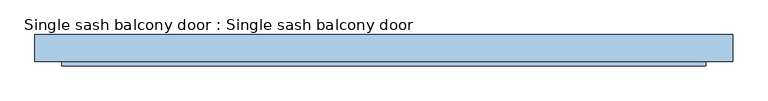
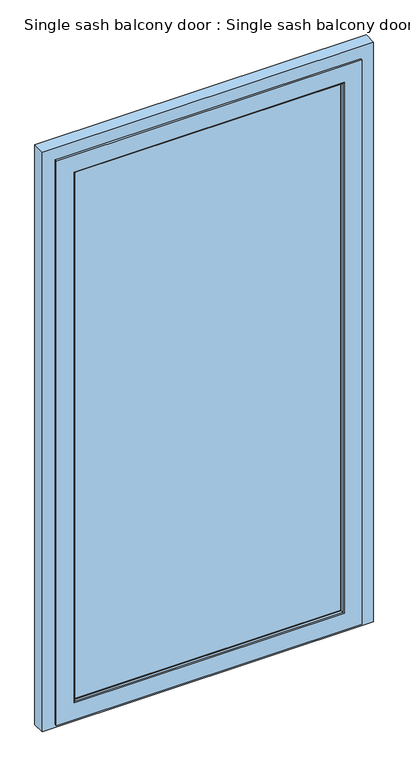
"""IFC4 building model written with IfcOpenShell, lengths in millimetres: window geometry, Single sash balcony door : Single sash balcony door."""

import ifcopenshell
import ifcopenshell.guid

model = None  # the IFC model being written
_history = None  # IfcOwnerHistory: only IFC2X3 demands one
_inside = {}  # id of a spatial element -> (the spatial element, [elements in it])
_under = {}  # id of a project, library or spatial element -> (it, [spatial elements below it])
_declared = {}  # id of a project -> (the project, [libraries it declares])
_typed = {}  # id of a type object -> (the type object, [elements of that type])
_made_of = {}  # id of a material, layer set ... -> (it, [elements and type objects made of it])


def new_model(schema):
    """Start an empty IFC model of exactly this schema.

    Asked for "IFC4X3", IfcOpenShell would pick the latest addendum, in which some entities
    have other attributes; the version numbers below select the first issue.
    IFC2X3 requires an IfcOwnerHistory on every rooted entity: one is made here for all.
    """
    global model, _history
    if schema == "IFC4X3":
        model = ifcopenshell.file(schema_version=(4, 3, 0, 0))
    else:
        model = ifcopenshell.file(schema=schema)
    _inside.clear()
    _under.clear()
    _declared.clear()
    _typed.clear()
    _made_of.clear()
    _history = None
    if model.schema == "IFC2X3":
        org = make("IfcOrganization", Name="unknown")
        user = make(
            "IfcPersonAndOrganization",
            ThePerson=make("IfcPerson", FamilyName="unknown"),
            TheOrganization=org,
        )
        app = make(
            "IfcApplication",
            ApplicationDeveloper=org,
            Version="unknown",
            ApplicationFullName="unknown",
            ApplicationIdentifier="unknown",
        )
        _history = make(
            "IfcOwnerHistory",
            OwningUser=user,
            OwningApplication=app,
            ChangeAction="ADDED",
            CreationDate=0,
        )
    return model


def make(cls, **values):
    """One entity of the class cls with the attributes given. An attribute that is None is left unset."""
    return model.create_entity(
        cls, **{name: value for name, value in values.items() if value is not None}
    )


def rooted(cls, **values):
    """An entity with a GlobalId (a new one), such as an element, a storey or a relation."""
    return make(cls, GlobalId=ifcopenshell.guid.new(), OwnerHistory=_history, **values)


def si_unit(unit_type, name, prefix=None):
    """IfcSIUnit, for example si_unit("LENGTHUNIT", "METRE", prefix="MILLI")."""
    return make("IfcSIUnit", UnitType=unit_type, Prefix=prefix, Name=name)


def assignment(units):
    """IfcUnitAssignment: the units of a project."""
    return None if units is None else make("IfcUnitAssignment", Units=units)


def point(xyz):
    """IfcCartesianPoint."""
    return None if xyz is None else make("IfcCartesianPoint", Coordinates=xyz)


def direction(xyz):
    """IfcDirection."""
    return None if xyz is None else make("IfcDirection", DirectionRatios=xyz)


def frame(location, z_axis=None, x_axis=None):
    """IfcAxis2Placement3D, a coordinate frame: its origin and axes. An axis left out is left unset."""
    return make(
        "IfcAxis2Placement3D",
        Location=point(location),
        Axis=direction(z_axis),
        RefDirection=direction(x_axis),
    )


def origin():
    """The frame at (0, 0, 0) with its axes left unset."""
    return frame((0.0, 0.0, 0.0))


def place(relative_to, where):
    """IfcLocalPlacement: puts the frame where relative to a parent placement (None: the world)."""
    return make(
        "IfcLocalPlacement", PlacementRelTo=relative_to, RelativePlacement=where
    )


def context(
    kind, dimensions, precision=None, world=None, true_north=None, identifier=None
):
    """IfcGeometricRepresentationContext, for example the 3D "Model" context."""
    return make(
        "IfcGeometricRepresentationContext",
        ContextIdentifier=identifier,
        ContextType=kind,
        CoordinateSpaceDimension=dimensions,
        Precision=precision,
        WorldCoordinateSystem=world,
        TrueNorth=true_north,
    )


def project(units=None, contexts=None):
    """IfcProject with its units and contexts."""
    return rooted(
        "IfcProject",
        Name="project",
        RepresentationContexts=contexts,
        UnitsInContext=assignment(units),
    )


def spatial(cls, under=None, at=None, **own):
    """A site, building, storey or space (cls), placed at a placement, below another one or the project."""
    s = rooted(cls, ObjectPlacement=at, **own)
    if under is not None:
        _under.setdefault(under.id(), (under, []))[1].append(s)
    return s


def polyline(points):
    """IfcPolyline through the points."""
    return make("IfcPolyline", Points=[point(p) for p in points])


def circle_curve(where, radius):
    """IfcCircle in the frame where."""
    return make("IfcCircle", Position=where, Radius=radius)


def ellipse_curve(where, semi_axis1, semi_axis2):
    """IfcEllipse in the frame where."""
    return make(
        "IfcEllipse", Position=where, SemiAxis1=semi_axis1, SemiAxis2=semi_axis2
    )


def outline(outer, holes=None, kind="AREA"):
    """IfcArbitraryClosedProfileDef: a profile drawn as a closed curve; with holes, ...WithVoids."""
    if holes is None:
        return make("IfcArbitraryClosedProfileDef", ProfileType=kind, OuterCurve=outer)
    return make(
        "IfcArbitraryProfileDefWithVoids",
        ProfileType=kind,
        OuterCurve=outer,
        InnerCurves=holes,
    )


def extrude(swept, where, along, depth):
    """IfcExtrudedAreaSolid: the profile swept, set in the frame where, extruded along a direction by depth."""
    return make(
        "IfcExtrudedAreaSolid",
        SweptArea=swept,
        Position=where,
        ExtrudedDirection=direction(along),
        Depth=depth,
    )


def shape(context_of_items, identifier, shape_type, items):
    """IfcShapeRepresentation: the items that make up one representation, for example the "Body"."""
    return make(
        "IfcShapeRepresentation",
        ContextOfItems=context_of_items,
        RepresentationIdentifier=identifier,
        RepresentationType=shape_type,
        Items=items,
    )


def source(mapping_origin, context_of_items, identifier, shape_type, items):
    """IfcRepresentationMap: a shape defined once, which mapped items show again and again."""
    return make(
        "IfcRepresentationMap",
        MappingOrigin=mapping_origin,
        MappedRepresentation=shape(context_of_items, identifier, shape_type, items),
    )


def transform(
    local_origin,
    x_axis=None,
    y_axis=None,
    z_axis=None,
    scale=None,
    scale2=None,
    scale3=None,
    uniform=True,
):
    """IfcCartesianTransformationOperator3D, or its non-uniform kind. x_axis, y_axis, z_axis: its Axis1, 2, 3."""
    if uniform:
        return make(
            "IfcCartesianTransformationOperator3D",
            Axis1=direction(x_axis),
            Axis2=direction(y_axis),
            LocalOrigin=point(local_origin),
            Scale=scale,
            Axis3=direction(z_axis),
        )
    return make(
        "IfcCartesianTransformationOperator3DnonUniform",
        Axis1=direction(x_axis),
        Axis2=direction(y_axis),
        LocalOrigin=point(local_origin),
        Scale=scale,
        Axis3=direction(z_axis),
        Scale2=scale2,
        Scale3=scale3,
    )


def mapped(mapping_source, mapping_target):
    """IfcMappedItem: shows the shape of a source again, moved by a transform."""
    return make(
        "IfcMappedItem", MappingSource=mapping_source, MappingTarget=mapping_target
    )


def made_of(thing, what):
    """Note that an element or type object is made of a material, layer set ...; save() writes the relation."""
    if what is not None:
        _made_of.setdefault(what.id(), (what, []))[1].append(thing)
    return thing


def element(
    cls,
    number,
    at=None,
    inside=None,
    cuts=None,
    type_object=None,
    material=None,
    context=None,
    identifier="Body",
    shape_type=None,
    held_by="IfcProductDefinitionShape",
    body=None,
    shapes=None,
    **own,
):
    """One element of the class cls, such as IfcWall. Its Tag is "e" and its number.

    at: its placement. inside: the storey or other place that contains it. cuts: it is an
    opening in that element (IfcRelVoidsElement). A single representation is given by context,
    identifier, shape_type and body (its items); several are given by shapes. held_by: the class
    of the entity that holds the representations. save() writes the other relations.
    """
    e = rooted(cls, Tag="e%d" % number, ObjectPlacement=at, **own)
    if body is not None:
        shapes = [shape(context, identifier, shape_type, body)]
    if shapes is not None:
        e.Representation = make(held_by, Representations=shapes)
    if inside is not None:
        _inside.setdefault(inside.id(), (inside, []))[1].append(e)
    if cuts is not None:
        rooted(
            "IfcRelVoidsElement", RelatingBuildingElement=cuts, RelatedOpeningElement=e
        )
    if type_object is not None:
        _typed.setdefault(type_object.id(), (type_object, []))[1].append(e)
    return made_of(e, material)


def aggregate(whole, parts):
    """IfcRelAggregates: a whole, such as a stair, and the parts it consists of."""
    return rooted("IfcRelAggregates", RelatingObject=whole, RelatedObjects=parts)


def save(model, path):
    """Write the relations noted so far, then the file.

    IfcRelAggregates (storeys below a building ...), IfcRelContainedInSpatialStructure (elements
    in a storey), IfcRelDefinesByType, IfcRelAssociatesMaterial and IfcRelDeclares: one each for
    every whole, place, type object, material and project.
    """
    for whole, parts in _under.values():
        aggregate(whole, parts)
    for where, things in _inside.values():
        rooted(
            "IfcRelContainedInSpatialStructure",
            RelatedElements=things,
            RelatingStructure=where,
        )
    for kind, things in _typed.values():
        rooted("IfcRelDefinesByType", RelatedObjects=things, RelatingType=kind)
    for what, things in _made_of.values():
        rooted("IfcRelAssociatesMaterial", RelatedObjects=things, RelatingMaterial=what)
    for by, libraries in _declared.values():
        rooted("IfcRelDeclares", RelatingContext=by, RelatedDefinitions=libraries)
    model.write(path)


def plane_surface(at):
    """IfcPlane: the flat surface through the origin of the frame at, square to its z axis."""
    return make("IfcPlane", Position=at)


def cylinder_surface(at, radius):
    """IfcCylindricalSurface: all points at the distance radius from the z axis of the frame at."""
    return make("IfcCylindricalSurface", Position=at, Radius=radius)


def advanced_brep(points, edges, surfaces, faces):
    """IfcAdvancedBrep: a solid bounded by faces that lie on surfaces and meet in shared edges.

    An edge is (start, end): straight between two places in points (the first is 0);
    or (start, end, curve); or (start, end, curve, False) where it runs against its curve.
    A face is (place in surfaces, loops), or (place, loops, False) where it looks against
    its surface's normal. A loop lists edges by number (the first is 1), with a minus sign
    where the edge is run from its end to its start. The first loop is the outer one.
    """
    corners = [point(p) for p in points]
    vertices = [make("IfcVertexPoint", VertexGeometry=c) for c in corners]
    made = []
    for start, end, *more in edges:
        made.append(
            make(
                "IfcEdgeCurve",
                EdgeStart=vertices[start],
                EdgeEnd=vertices[end],
                EdgeGeometry=more[0] if more else make("IfcPolyline", Points=[corners[start], corners[end]]),
                SameSense=more[1] if len(more) > 1 else True,
            )
        )
    hull = []
    for where, loops, *sense in faces:
        bounds = []
        for j, loop in enumerate(loops):
            ring = [make("IfcOrientedEdge", EdgeElement=made[abs(k) - 1], Orientation=k > 0) for k in loop]
            bounds.append(
                make(
                    "IfcFaceOuterBound" if j == 0 else "IfcFaceBound",
                    Bound=make("IfcEdgeLoop", EdgeList=ring),
                    Orientation=True,
                )
            )
        hull.append(make("IfcAdvancedFace", Bounds=bounds, FaceSurface=surfaces[where], SameSense=sense[0] if sense else True))
    return make("IfcAdvancedBrep", Outer=make("IfcClosedShell", CfsFaces=hull))


def single_sash_balcony_door_single_sash_balcony_door_8578c67e(model_context):
    return source(origin(), model_context, "Body", "SolidModel", [
        extrude(outline(polyline([(-491.0033737, 4.9434496), (491.0033737, 4.9434496), (491.0033737, -19.0565504), (-491.0033737, -19.0565504), (-491.0033737, 4.9434496)])), frame((0.0, 0.0, 125.4966263), z_axis=(0.0, 0.0, 1.0), x_axis=(1.0, 0.0, 0.0)), (0.0, 0.0, 1.0), 2015.5067474),
        advanced_brep(
        [(-475.9999852, -23.4916685, 140.5000148), (-477.7795065, -30.8250073, 138.7204935), (477.7795065, -30.8250073, 138.7204935), (475.9999852, -23.4916685, 140.5000148), (477.7795065, -30.8250073, 2127.7795065), (475.9999852, -23.4916685, 2125.9999852), (481.3346252, -32.9916685, 135.1653748), (481.3346252, -32.9916685, 2131.3346252), (475.9999852, -19.0565504, 140.5000148), (475.9999852, -19.0565504, 2125.9999852), (-475.9999852, -19.0565504, 140.5000148), (491.0033737, -19.0565504, 125.4966263), (-491.0033737, -19.0565504, 125.4966263), (-491.0033737, -19.0565504, 2141.0033737), (491.0033737, -19.0565504, 2141.0033737), (-475.9999852, -19.0565504, 2125.9999852), (-491.0033737, 4.9434496, 125.4966263), (491.0033737, 4.9434496, 125.4966263), (491.0033737, 4.9434496, 2141.0033737), (-491.0033737, 4.9434496, 2141.0033737), (475.9999772, 4.9434496, 140.5000228), (-475.9999772, 4.9434496, 140.5000228), (-475.9999772, 4.9434496, 2125.9999772), (475.9999772, 4.9434496, 2125.9999772), (-475.9999772, 14.5083925, 140.5000228), (475.9999772, 14.5083925, 140.5000228), (475.9999772, 14.5083925, 2125.9999772), (481.4999772, 20.0083925, 135.0000228), (481.4999772, 20.0083925, 2131.4999772), (-481.4999772, 20.0083925, 135.0000228), (511.5, 20.0083924, 105.0), (-511.5, 20.0083924, 105.0), (-511.5, 20.0083924, 2161.5), (511.5, 20.0083924, 2161.5), (-481.4999772, 20.0083924, 2131.4999772), (-511.5, 12.0083925, 105.0), (511.5, 12.0083925, 105.0), (511.5, 12.0083925, 2161.5), (526.9999558, 12.0083925, 89.5000442), (-526.9999558, 12.0083925, 89.5000442), (-526.9999558, 12.0083925, 2176.9999558), (526.9999558, 12.0083925, 2176.9999558), (-511.5, 12.0083925, 2161.5), (-526.9999558, -25.0, 89.5000442), (526.9999558, -25.0, 89.5000442), (526.9999558, -25.0, 2176.9999558), (544.5000082, -25.0, 71.9999918), (-544.5000082, -25.0, 71.9999918), (-544.5000082, -25.0, 2194.5000082), (544.5000082, -25.0, 2194.5000082), (-526.9999558, -25.0, 2176.9999558), (-544.5000082, -32.9916685, 71.9999918), (544.5000082, -32.9916685, 71.9999918), (544.5000082, -32.9916685, 2194.5000082), (-544.5000082, -32.9916685, 2194.5000082), (-481.3346252, -32.9916685, 135.1653748), (-481.3346252, -32.9916685, 2131.3346252), (-475.9999852, -23.4916685, 2125.9999852), (-477.7795065, -30.8250073, 2127.7795065), (-475.9999772, 14.5083925, 2125.9999772)],
        [
            (0, 1, ellipse_curve(frame((-491.9999492, -23.4916685, 124.5000508), z_axis=(0.7071067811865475, 0.0, -0.7071067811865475), x_axis=(-0.7071067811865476, 0.0, -0.7071067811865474)), 22.6273661, 15.999964)),
            (1, 2),
            (2, 3, ellipse_curve(frame((491.9999492, -23.4916685, 124.5000508), z_axis=(-0.7071067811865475, 0.0, -0.7071067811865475), x_axis=(-0.7071067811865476, 0.0, 0.7071067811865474)), 22.6273661, 15.999964)),
            (3, 0),
            (2, 4),
            (4, 5, ellipse_curve(frame((491.9999492, -23.4916685, 2141.9999492), z_axis=(0.7071067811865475, 0.0, -0.7071067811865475), x_axis=(-0.7071067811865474, 0.0, -0.7071067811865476)), 22.6273661, 15.999964)),
            (5, 3),
            (2, 6, ellipse_curve(frame((481.3346252, -28.9916685, 135.1653748), z_axis=(0.7071067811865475, 0.0, 0.7071067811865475), x_axis=(0.7071067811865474, 0.0, -0.7071067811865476)), 5.6568542, 4.0)),
            (6, 7),
            (7, 4, ellipse_curve(frame((481.3346252, -28.9916685, 2131.3346252), z_axis=(0.7071067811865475, 0.0, -0.7071067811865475), x_axis=(-0.7071067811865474, 0.0, -0.7071067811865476)), 5.6568542, 4.0)),
            (8, 3),
            (5, 9),
            (9, 8),
            (10, 0),
            (8, 10),
            (11, 12),
            (12, 13),
            (13, 14),
            (14, 11),
            (9, 15),
            (15, 10),
            (16, 12),
            (11, 17),
            (17, 16),
            (14, 18),
            (18, 17),
            (18, 19),
            (19, 16),
            (20, 21),
            (21, 22),
            (22, 23),
            (23, 20),
            (24, 21),
            (20, 25),
            (25, 24),
            (23, 26),
            (26, 25),
            (27, 25, ellipse_curve(frame((481.4999772, 14.5083925, 135.0000228), z_axis=(0.7071067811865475, 0.0, 0.7071067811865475), x_axis=(0.7071067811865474, 0.0, -0.7071067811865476)), 7.7781746, 5.5)),
            (26, 28, ellipse_curve(frame((481.4999772, 14.5083925, 2131.4999772), z_axis=(0.7071067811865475, 0.0, -0.7071067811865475), x_axis=(-0.7071067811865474, 0.0, -0.7071067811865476)), 7.7781746, 5.5)),
            (28, 27),
            (29, 24, ellipse_curve(frame((-481.4999772, 14.5083925, 135.0000228), z_axis=(0.7071067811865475, 0.0, -0.7071067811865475), x_axis=(-0.7071067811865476, 0.0, -0.7071067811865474)), 7.7781746, 5.5)),
            (27, 29),
            (30, 31),
            (31, 32),
            (32, 33),
            (33, 30),
            (28, 34),
            (34, 29),
            (35, 31),
            (30, 36),
            (36, 35),
            (33, 37),
            (37, 36),
            (38, 39),
            (39, 40),
            (40, 41),
            (41, 38),
            (37, 42),
            (42, 35),
            (43, 39),
            (38, 44),
            (44, 43),
            (41, 45),
            (45, 44),
            (46, 47),
            (47, 48),
            (48, 49),
            (49, 46),
            (45, 50),
            (50, 43),
            (51, 47),
            (46, 52),
            (52, 51),
            (49, 53),
            (53, 52),
            (53, 54),
            (54, 51),
            (6, 55),
            (55, 56),
            (56, 7),
            (1, 55, ellipse_curve(frame((-481.3346252, -28.9916685, 135.1653748), z_axis=(0.7071067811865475, 0.0, -0.7071067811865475), x_axis=(-0.7071067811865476, 0.0, -0.7071067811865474)), 5.6568542, 4.0)),
            (57, 58, ellipse_curve(frame((-491.9999492, -23.4916685, 2141.9999492), z_axis=(-0.7071067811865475, 0.0, -0.7071067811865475), x_axis=(-0.7071067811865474, 0.0, 0.7071067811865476)), 22.6273661, 15.999964)),
            (58, 1),
            (0, 57),
            (58, 56, ellipse_curve(frame((-481.3346252, -28.9916685, 2131.3346252), z_axis=(-0.7071067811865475, 0.0, -0.7071067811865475), x_axis=(-0.7071067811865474, 0.0, 0.7071067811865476)), 5.6568542, 4.0)),
            (15, 57),
            (19, 13),
            (59, 22),
            (24, 59),
            (34, 59, ellipse_curve(frame((-481.4999772, 14.5083925, 2131.4999772), z_axis=(-0.7071067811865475, 0.0, -0.7071067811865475), x_axis=(-0.7071067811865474, 0.0, 0.7071067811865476)), 7.7781746, 5.5)),
            (42, 32),
            (50, 40),
            (54, 48),
            (4, 58),
            (57, 5),
            (59, 26),
        ],
        [
            cylinder_surface(frame((-590.0, -23.4916685, 124.5000508), z_axis=(-1.0, 0.0, 0.0), x_axis=(0.0, 0.0, 1.0)), 15.999964),
            cylinder_surface(frame((491.9999492, -23.4916685, 26.5), z_axis=(0.0, 0.0, -1.0), x_axis=(-1.0, 0.0, 0.0)), 15.999964),
            cylinder_surface(frame((481.3346252, -28.9916685, 26.5), z_axis=(0.0, 0.0, -1.0), x_axis=(-0.888780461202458, -0.45833316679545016, 0.0)), 4.0),
            plane_surface(frame((475.9999852, -23.4916685, 140.5000148), z_axis=(-1.0, 0.0, 0.0), x_axis=(0.0, 0.0, 1.0))),
            plane_surface(frame((-475.9999852, -23.4916685, 140.5000148), z_axis=(0.0, 0.0, 1.0), x_axis=(1.0, 0.0, 0.0))),
            plane_surface(frame((-475.9999852, -19.0565504, 140.5000148), z_axis=(0.0, 1.0, 0.0), x_axis=(1.0, 0.0, 0.0))),
            plane_surface(frame((-491.0033737, -19.0565504, 125.4966263), z_axis=(0.0, 0.0, 1.0), x_axis=(1.0, 0.0, 0.0))),
            plane_surface(frame((491.0033737, -19.0565504, 125.4966263), z_axis=(-1.0, 0.0, 0.0), x_axis=(0.0, 0.0, 1.0))),
            plane_surface(frame((-491.0033737, 4.9434496, 125.4966263), z_axis=(0.0, -1.0, 0.0), x_axis=(1.0, 0.0, 0.0))),
            plane_surface(frame((-475.9999772, 4.9434496, 140.5000228), z_axis=(0.0, 0.0, 1.0), x_axis=(1.0, 0.0, 0.0))),
            plane_surface(frame((475.9999772, 4.9434496, 140.5000228), z_axis=(-1.0, 0.0, 0.0), x_axis=(0.0, 0.0, 1.0))),
            cylinder_surface(frame((481.4999772, 14.5083925, 26.5), z_axis=(0.0, 0.0, -1.0), x_axis=(0.0, 1.0, 0.0)), 5.5),
            cylinder_surface(frame((-590.0, 14.5083925, 135.0000228), z_axis=(-1.0, 0.0, 0.0), x_axis=(0.0, 1.0, 0.0)), 5.5),
            plane_surface(frame((-481.4999772, 20.0083924, 135.0000228), z_axis=(0.0, 1.0, 0.0), x_axis=(1.0, 0.0, 0.0))),
            plane_surface(frame((-511.5, 20.0083924, 105.0), z_axis=(0.0, 0.0, -1.0), x_axis=(1.0, 0.0, 0.0))),
            plane_surface(frame((511.5, 20.0083924, 105.0), z_axis=(1.0, 0.0, 0.0), x_axis=(0.0, 0.0, 1.0))),
            plane_surface(frame((-511.5, 12.0083925, 105.0), z_axis=(0.0, 1.0, 0.0), x_axis=(1.0, 0.0, 0.0))),
            plane_surface(frame((-526.9999558, 12.0083925, 89.5000442), z_axis=(0.0, 0.0, -1.0), x_axis=(1.0, 0.0, 0.0))),
            plane_surface(frame((526.9999558, 12.0083925, 89.5000442), z_axis=(1.0, 0.0, 0.0), x_axis=(0.0, 0.0, 1.0))),
            plane_surface(frame((-526.9999558, -25.0, 89.5000442), z_axis=(0.0, 1.0, 0.0), x_axis=(1.0, 0.0, 0.0))),
            plane_surface(frame((-544.5000082, -25.0, 71.9999918), z_axis=(0.0, 0.0, -1.0), x_axis=(1.0, 0.0, 0.0))),
            plane_surface(frame((544.5000082, -25.0, 71.9999918), z_axis=(1.0, 0.0, 0.0), x_axis=(0.0, 0.0, 1.0))),
            plane_surface(frame((-544.5000082, -32.9916685, 71.9999918), z_axis=(0.0, -1.0, 0.0), x_axis=(1.0, 0.0, 0.0))),
            cylinder_surface(frame((-590.0, -28.9916685, 135.1653748), z_axis=(-1.0, 0.0, 0.0), x_axis=(0.0, -0.45833316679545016, 0.888780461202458)), 4.0),
            cylinder_surface(frame((-491.9999492, -23.4916685, 2240.0), z_axis=(0.0, 0.0, 1.0), x_axis=(1.0, 0.0, 0.0)), 15.999964),
            cylinder_surface(frame((-481.3346252, -28.9916685, 2240.0), z_axis=(0.0, 0.0, 1.0), x_axis=(0.888780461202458, -0.45833316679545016, 0.0)), 4.0),
            plane_surface(frame((-475.9999852, -23.4916685, 2125.9999852), z_axis=(1.0, 0.0, 0.0), x_axis=(0.0, 0.0, -1.0))),
            plane_surface(frame((-491.0033737, -19.0565504, 2141.0033737), z_axis=(1.0, 0.0, 0.0), x_axis=(0.0, 0.0, -1.0))),
            plane_surface(frame((-475.9999772, 4.9434496, 2125.9999772), z_axis=(1.0, 0.0, 0.0), x_axis=(0.0, 0.0, -1.0))),
            cylinder_surface(frame((-481.4999772, 14.5083925, 2240.0), z_axis=(0.0, 0.0, 1.0), x_axis=(0.0, 1.0, 0.0)), 5.5),
            plane_surface(frame((-511.5, 20.0083924, 2161.5), z_axis=(-1.0, 0.0, 0.0), x_axis=(0.0, 0.0, -1.0))),
            plane_surface(frame((-526.9999558, 12.0083925, 2176.9999558), z_axis=(-1.0, 0.0, 0.0), x_axis=(0.0, 0.0, -1.0))),
            plane_surface(frame((-544.5000082, -25.0, 2194.5000082), z_axis=(-1.0, 0.0, 0.0), x_axis=(0.0, 0.0, -1.0))),
            cylinder_surface(frame((590.0, -23.4916685, 2141.9999492), z_axis=(1.0, 0.0, 0.0), x_axis=(0.0, 0.0, -1.0)), 15.999964),
            plane_surface(frame((475.9999852, -23.4916685, 2125.9999852), z_axis=(0.0, 0.0, -1.0), x_axis=(-1.0, 0.0, 0.0))),
            plane_surface(frame((491.0033737, -19.0565504, 2141.0033737), z_axis=(0.0, 0.0, -1.0), x_axis=(-1.0, 0.0, 0.0))),
            plane_surface(frame((475.9999772, 4.9434496, 2125.9999772), z_axis=(0.0, 0.0, -1.0), x_axis=(-1.0, 0.0, 0.0))),
            cylinder_surface(frame((590.0, 14.5083925, 2131.4999772), z_axis=(1.0, 0.0, 0.0), x_axis=(0.0, 1.0, 0.0)), 5.5),
            plane_surface(frame((511.5, 20.0083924, 2161.5), z_axis=(0.0, 0.0, 1.0), x_axis=(-1.0, 0.0, 0.0))),
            plane_surface(frame((526.9999558, 12.0083925, 2176.9999558), z_axis=(0.0, 0.0, 1.0), x_axis=(-1.0, 0.0, 0.0))),
            plane_surface(frame((544.5000082, -25.0, 2194.5000082), z_axis=(0.0, 0.0, 1.0), x_axis=(-1.0, 0.0, 0.0))),
            cylinder_surface(frame((590.0, -28.9916685, 2131.3346252), z_axis=(1.0, 0.0, 0.0), x_axis=(0.0, -0.45833316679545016, -0.888780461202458)), 4.0),
        ],
        [
            (0, [[1, 2, 3, 4]]),
            (1, [[-3, 5, 6, 7]]),
            (2, [[8, 9, 10, -5]]),
            (3, [[11, -7, 12, 13]]),
            (4, [[14, -4, -11, 15]]),
            (5, [[16, 17, 18, 19], [20, 21, -15, -13]]),
            (6, [[22, -16, 23, 24]]),
            (7, [[-23, -19, 25, 26]]),
            (8, [[27, 28, -24, -26], [29, 30, 31, 32]]),
            (9, [[33, -29, 34, 35]]),
            (10, [[-34, -32, 36, 37]]),
            (11, [[38, -37, 39, 40]]),
            (12, [[41, -35, -38, 42]]),
            (13, [[43, 44, 45, 46], [47, 48, -42, -40]]),
            (14, [[49, -43, 50, 51]]),
            (15, [[-50, -46, 52, 53]]),
            (16, [[54, 55, 56, 57], [58, 59, -51, -53]]),
            (17, [[60, -54, 61, 62]]),
            (18, [[-61, -57, 63, 64]]),
            (19, [[65, 66, 67, 68], [69, 70, -62, -64]]),
            (20, [[71, -65, 72, 73]]),
            (21, [[-72, -68, 74, 75]]),
            (22, [[76, 77, -73, -75], [78, 79, 80, -9]]),
            (23, [[81, -78, -8, -2]]),
            (24, [[82, 83, -1, 84]]),
            (25, [[85, -79, -81, -83]]),
            (26, [[86, -84, -14, -21]]),
            (27, [[87, -17, -22, -28]]),
            (28, [[88, -30, -33, 89]]),
            (29, [[90, -89, -41, -48]]),
            (30, [[91, -44, -49, -59]]),
            (31, [[92, -55, -60, -70]]),
            (32, [[93, -66, -71, -77]]),
            (33, [[-6, 94, -82, 95]]),
            (34, [[-12, -95, -86, -20]]),
            (35, [[-25, -18, -87, -27]]),
            (36, [[-36, -31, -88, 96]]),
            (37, [[-39, -96, -90, -47]]),
            (38, [[-52, -45, -91, -58]]),
            (39, [[-63, -56, -92, -69]]),
            (40, [[-74, -67, -93, -76]]),
            (41, [[-10, -80, -85, -94]]),
        ],
    ),
        advanced_brep(
        [(-590.0, 20.0, 60.0), (-516.5, 20.0, 60.0), (-516.5, 15.0244235, 60.0), (516.5, 15.0244235, 60.0), (516.5, 20.0, 60.0), (590.0, 20.0, 60.0), (590.0, -25.0, 60.0), (-590.0, -25.0, 60.0), (590.0, -25.0, 2240.0), (-590.0, -25.0, 2240.0), (538.5, -25.0, 2188.5), (538.5, -25.0, 78.4), (-538.5, -25.0, 78.4), (-538.5, -25.0, 2188.5), (538.5, 15.0244235, 2188.5), (538.5, 15.0244235, 76.2105464), (538.5, 8.481505, 80.6731423), (538.5, 7.4650456, 80.5779171), (538.5, 5.2871285, 78.4), (-538.5, 15.0244235, 2188.5), (-538.5, 5.2871285, 78.4), (-538.5, 7.4650456, 80.5779171), (-538.5, 8.481505, 80.6731423), (-538.5, 15.0244235, 76.2105464), (-590.0, 20.0, 2240.0), (590.0, 20.0, 2240.0), (516.5, 20.0, 2166.5), (-516.5, 20.0, 2166.5), (-516.5, 15.0244235, 2166.5), (-516.5, 15.0244235, 76.2105464), (516.5, 15.0244235, 76.2105464), (516.5, 15.0244235, 2166.5)],
        [
            (0, 1),
            (1, 2),
            (2, 3),
            (3, 4),
            (4, 5),
            (5, 6),
            (6, 7),
            (7, 0),
            (6, 8),
            (8, 9),
            (9, 7),
            (10, 11),
            (11, 12),
            (12, 13),
            (13, 10),
            (10, 14),
            (14, 15),
            (15, 16),
            (16, 17, circle_curve(frame((538.5, 8.030731, 80.0122317), z_axis=(1.0, 0.0, 0.0), x_axis=(0.0, 0.5634674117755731, 0.8261382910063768)), 0.8)),
            (17, 18),
            (18, 11),
            (19, 13),
            (12, 20),
            (20, 21),
            (21, 22, circle_curve(frame((-538.5, 8.030731, 80.0122317), z_axis=(-1.0, 0.0, 0.0), x_axis=(0.0, 0.5634674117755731, 0.8261382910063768)), 0.8)),
            (22, 23),
            (23, 19),
            (24, 0),
            (9, 24),
            (24, 25),
            (25, 5),
            (4, 26),
            (26, 27),
            (27, 1),
            (25, 8),
            (27, 28),
            (28, 29),
            (29, 2),
            (30, 29),
            (29, 23),
            (22, 16),
            (15, 30),
            (3, 30),
            (30, 31),
            (31, 26),
            (28, 31),
            (14, 19),
            (18, 20),
            (17, 21),
        ],
        [
            plane_surface(frame((-590.0, 20.0, 60.0), z_axis=(0.0, 0.0, -1.0), x_axis=(0.0, -1.0, 0.0))),
            plane_surface(frame((-538.5, -25.0, 60.0), z_axis=(0.0, -1.0, 0.0), x_axis=(0.0, 0.0, 1.0))),
            plane_surface(frame((538.5, 15.0244235, 2188.5), z_axis=(-1.0, 0.0, 0.0), x_axis=(0.0, 0.0, -1.0))),
            plane_surface(frame((-538.5, 15.0244235, 60.0), z_axis=(1.0, 0.0, 0.0), x_axis=(0.0, 0.0, 1.0))),
            plane_surface(frame((-590.0, -25.0, 60.0), z_axis=(-1.0, 0.0, 0.0), x_axis=(0.0, 0.0, 1.0))),
            plane_surface(frame((-539.89444, 20.0, 60.0), z_axis=(0.0, 1.0, 0.0), x_axis=(0.0, 0.0, 1.0))),
            plane_surface(frame((590.0, -25.0, 2240.0), z_axis=(1.0, 0.0, 0.0), x_axis=(0.0, 0.0, -1.0))),
            plane_surface(frame((-516.5, 20.0, 60.0), z_axis=(1.0, 0.0, 0.0), x_axis=(0.0, 0.0, 1.0))),
            plane_surface(frame((-590.0, 8.481505, 80.6731423), z_axis=(0.0, 0.5634674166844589, 0.8261382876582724), x_axis=(1.0, 0.0, 0.0))),
            plane_surface(frame((516.5, 20.0, 2166.5), z_axis=(-1.0, 0.0, 0.0), x_axis=(0.0, 0.0, -1.0))),
            plane_surface(frame((-516.5, 15.0244235, 60.0), z_axis=(0.0, -1.0, 0.0), x_axis=(0.0, 0.0, 1.0))),
            plane_surface(frame((-590.0, -25.0, 78.4), z_axis=(0.0, 0.0, 1.0), x_axis=(1.0, 0.0, 0.0))),
            plane_surface(frame((-590.0, 5.2871285, 78.4), z_axis=(0.0, -0.7071067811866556, 0.7071067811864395), x_axis=(1.0, 0.0, 0.0))),
            cylinder_surface(frame((-590.0, 8.030731, 80.0122317), z_axis=(-1.0000000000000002, 0.0, 0.0), x_axis=(0.0, 0.5634674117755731, 0.8261382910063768)), 0.8),
            plane_surface(frame((-516.5, 20.0, 2166.5), z_axis=(0.0, 0.0, -1.0), x_axis=(1.0, 0.0, 0.0))),
            plane_surface(frame((-538.5, 15.0244235, 2188.5), z_axis=(0.0, 0.0, -1.0), x_axis=(1.0, 0.0, 0.0))),
            plane_surface(frame((-590.0, -25.0, 2240.0), z_axis=(0.0, 0.0, 1.0), x_axis=(1.0, 0.0, 0.0))),
            plane_surface(frame((-590.0, 15.0, 76.2272044), z_axis=(0.0, 1.0, 0.0), x_axis=(1.0, 0.0, 0.0))),
        ],
        [
            (0, [[1, 2, 3, 4, 5, 6, 7, 8]]),
            (1, [[-7, 9, 10, 11], [12, 13, 14, 15]]),
            (2, [[16, 17, 18, 19, 20, 21, -12]]),
            (3, [[22, -14, 23, 24, 25, 26, 27]]),
            (4, [[28, -8, -11, 29]]),
            (5, [[-1, -28, 30, 31, -5, 32, 33, 34]]),
            (6, [[-9, -6, -31, 35]]),
            (7, [[-2, -34, 36, 37, 38]]),
            (8, [[39, 40, -26, 41, -18, 42]]),
            (9, [[-4, 43, 44, 45, -32]]),
            (10, [[46, -44, -42, -17, 47, -27, -40, -37]]),
            (11, [[-13, -21, 48, -23]]),
            (12, [[-48, -20, 49, -24]]),
            (13, [[-49, -19, -41, -25]]),
            (14, [[-33, -45, -46, -36]]),
            (15, [[-47, -16, -15, -22]]),
            (16, [[-30, -29, -10, -35]]),
            (17, [[-3, -38, -39, -43]]),
        ],
    ),
    ])


if __name__ == "__main__":
    model = new_model("IFC4")
    model_context = context("Model", 3, world=origin())
    ifc_project = project(units=[si_unit("LENGTHUNIT", "METRE", prefix="MILLI")], contexts=[model_context])
    site = spatial("IfcSite", under=ifc_project)
    building = spatial("IfcBuilding", under=site)
    placement = place(None, origin())
    single_sash_balcony_door_single_sash_balcony_door_shape = single_sash_balcony_door_single_sash_balcony_door_8578c67e(model_context)
    element("IfcWindow", 1, ObjectType="Single sash balcony door : Single sash balcony door", at=placement, inside=building, context=model_context, shape_type="MappedRepresentation", body=[
        mapped(single_sash_balcony_door_single_sash_balcony_door_shape, transform((0.0, 0.0, 0.0), x_axis=(1.0, 0.0, 0.0), y_axis=(0.0, 1.0, 0.0), z_axis=(0.0, 0.0, 1.0))),
    ])
    save(model, "model.ifc")
